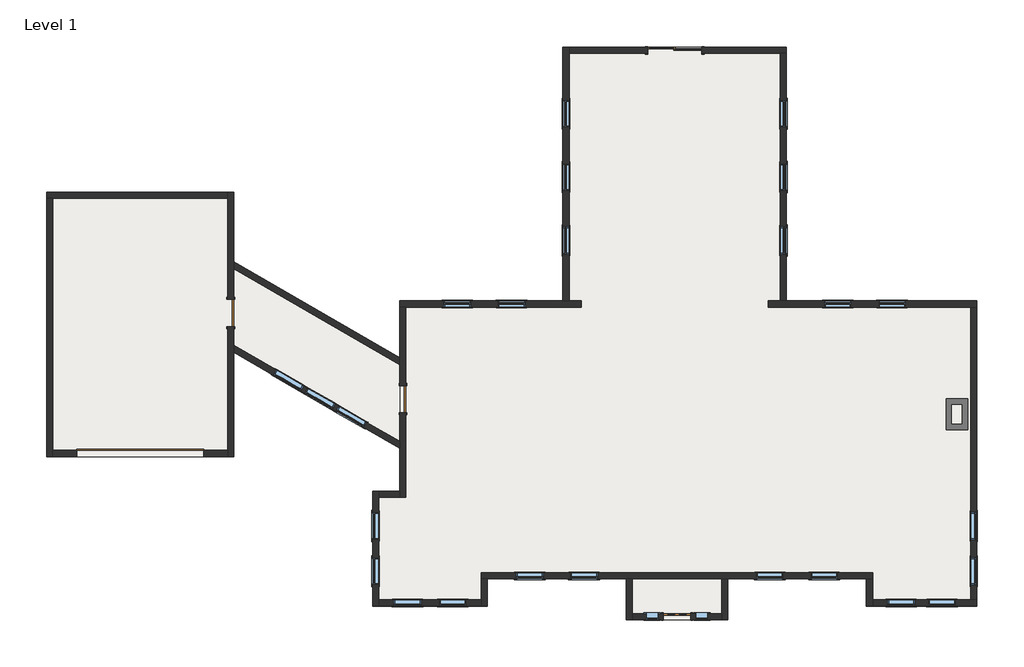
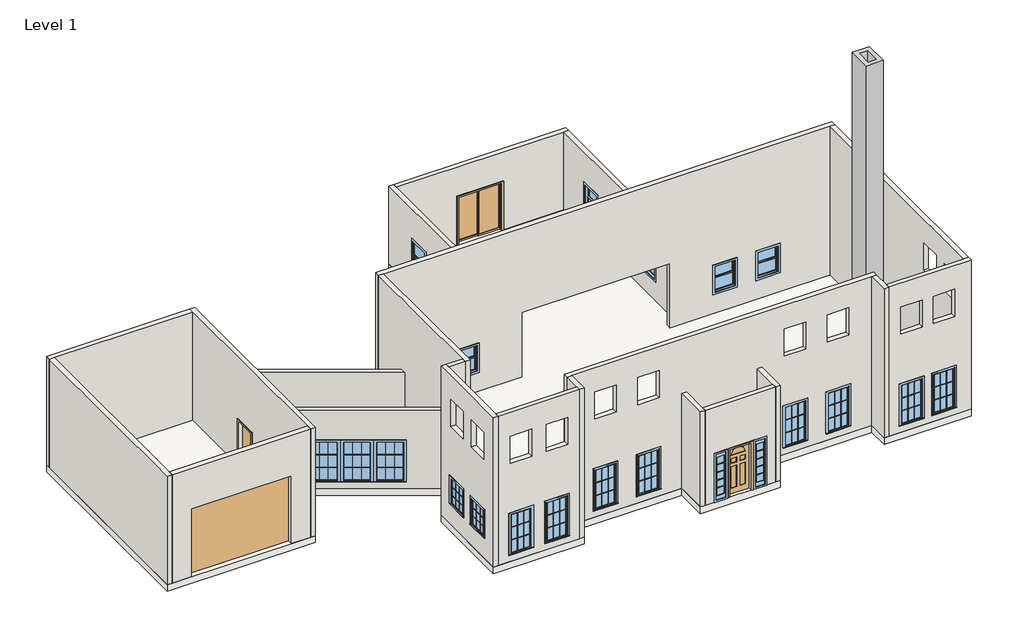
# One storey: 27 windows, 22 walls, 5 doors, 3 slabs, 1 proxy.
"""IFC4 building model written with IfcOpenShell, lengths in millimetres."""

from ifc_helpers import new_model, si_unit, frame, origin, origin_with_axes, place, context, project, spatial, polyline, outline, extrude, faceted_brep, transform, mapped, element, save
from components import chimney_chimney_af68f421, overhead_sectional_14_x_10_8c0ee61c, door_b1a02c97, door_4f2f89b6, door_f8fd2036, casement_3x3_with_trim_8b323df3, casement_3x3_with_trim_29c06734, casement_3x3_with_trim_7d330b5e, double_hung_with_trim_31198920, window_b28cb548, window_fc224a87

model = new_model("IFC4")

# Units and contexts
model_context = context("Model", 3, world=origin())
ifc_project = project(units=[si_unit("LENGTHUNIT", "METRE", prefix="MILLI")], contexts=[model_context])

# Site, building, storey
site = spatial("IfcSite", under=ifc_project)
building = spatial("IfcBuilding", under=site)
storey = spatial("IfcBuildingStorey", under=building, Name="Level 1", Elevation=0.0)

# Proxy
placement = place(None, origin())
chimney_chimney_shape = chimney_chimney_af68f421(model_context)
element("IfcBuildingElementProxy", 1, Name="chimney : chimney", ObjectType="chimney : chimney", at=placement, inside=storey, context=model_context, shape_type="MappedRepresentation", body=[
    mapped(chimney_chimney_shape, transform((0.0, 0.0, 0.0), x_axis=(1.0, 0.0, 0.0), y_axis=(0.0, 1.0, 0.0), z_axis=(0.0, 0.0, 1.0))),
])

# Doors
overhead_sectional_14_x_10_shape = overhead_sectional_14_x_10_8c0ee61c(model_context)
element("IfcDoor", 2, ObjectType="Overhead Sectional : 14 x 10", at=placement, inside=storey, context=model_context, shape_type="MappedRepresentation", body=[
    mapped(overhead_sectional_14_x_10_shape, transform((-185224.9354666, 11098.6757393, 0.0), x_axis=(-1.0, 0.0, 0.0), y_axis=(0.0, -1.0, 0.0), z_axis=(0.0, 0.0, 1.0))),
])
door_shape = door_b1a02c97(model_context)
element("IfcDoor", 3, ObjectType="Sample Decorative 2 : 36\" x 84\"", at=placement, inside=storey, context=model_context, shape_type="MappedRepresentation", body=[
    mapped(door_shape, transform((-167165.5354666, 5612.2757393, 0.0), x_axis=(1.0, 0.0, 0.0), y_axis=(0.0, 1.0, 0.0), z_axis=(0.0, 0.0, 1.0))),
])
door_2_shape = door_4f2f89b6(model_context)
element("IfcDoor", 4, ObjectType="Sgl Flush : 36\" x 80\"", at=placement, inside=storey, context=model_context, shape_type="MappedRepresentation", body=[
    mapped(door_2_shape, transform((-176385.7354666, 12927.4757393, 0.0), x_axis=(0.0, -1.0, 0.0), y_axis=(1.0, 0.0, 0.0), z_axis=(0.0, 0.0, 1.0))),
])
element("IfcDoor", 5, ObjectType="Sgl Flush : 36\" x 80\"", at=placement, inside=storey, context=model_context, shape_type="MappedRepresentation", body=[
    mapped(door_2_shape, transform((-182176.9354666, 15823.0757393, 0.0), x_axis=(0.0, -1.0, 0.0), y_axis=(1.0, 0.0, 0.0), z_axis=(0.0, 0.0, 1.0))),
])
door_3_shape = door_f8fd2036(model_context)
element("IfcDoor", 6, ObjectType="Sliding-2 panel : 72\" x 84\"", at=placement, inside=storey, context=model_context, shape_type="MappedRepresentation", body=[
    mapped(door_3_shape, transform((-167241.7354666, 24535.2757393, 0.0), x_axis=(1.0, 0.0, 0.0), y_axis=(0.0, 1.0, 0.0), z_axis=(0.0, 0.0, 1.0))),
])

# Slabs
element("IfcSlab", 7, ObjectType="Generic - 12\"", at=placement, inside=storey, context=model_context, shape_type="SweptSolid", body=[
    extrude(outline(polyline([(-188374.5354666, 19887.0757393), (-182075.3354666, 19887.0757393), (-182075.3354666, 10997.0757393), (-188374.5354666, 10997.0757393), (-188374.5354666, 19887.0757393)])), frame((0.0, 0.0, -304.8), z_axis=(0.0, 0.0, 1.0), x_axis=(1.0, 0.0, 0.0)), (0.0, 0.0, 1.0), 304.8),
])
element("IfcSlab", 8, ObjectType="Generic - 12\"", at=placement, inside=storey, context=model_context, shape_type="SweptSolid", body=[
    extrude(outline(polyline([(-182075.3354666, 17548.8854056), (-176487.3354666, 14322.6521013), (-176487.3354666, 11272.3951592), (-182075.3354666, 14498.6284634), (-182075.3354666, 17548.8854056)])), frame((0.0, 0.0, -304.8), z_axis=(0.0, 0.0, 1.0), x_axis=(1.0, 0.0, 0.0)), (0.0, 0.0, 1.0), 304.8),
])
element("IfcSlab", 9, ObjectType="Generic - 12\"", at=placement, inside=storey, context=model_context, shape_type="SweptSolid", body=[
    extrude(outline(polyline([(-171000.9354666, 16229.4757393), (-171000.9354666, 24763.8757393), (-163482.5354666, 24763.8757393), (-163482.5354666, 16229.4757393), (-157081.7354666, 16229.4757393), (-157081.7354666, 5967.8757393), (-160790.1354666, 5967.8757393), (-160790.1354666, 6882.2757393), (-165463.7354666, 6882.2757393), (-165463.7354666, 5510.6757393), (-168867.3354666, 5510.6757393), (-168867.3354666, 6882.2757393), (-173540.9354666, 6882.2757393), (-173540.9354666, 5967.8757393), (-177401.7354666, 5967.8757393), (-177401.7354666, 9828.6757393), (-176487.3354666, 9828.6757393), (-176487.3354666, 16229.4757393), (-171000.9354666, 16229.4757393)])), frame((0.0, 0.0, -304.8), z_axis=(0.0, 0.0, 1.0), x_axis=(1.0, 0.0, 0.0)), (0.0, 0.0, 1.0), 304.8),
])

# Walls
element("IfcWall", 10, ObjectType="Generic - 8\"", at=placement, inside=storey, context=model_context, shape_type="Brep", body=[
    faceted_brep([(-176487.3354666, 16026.2757393, 0.0), (-176284.1354666, 16026.2757393, 0.0), (-170391.3354666, 16026.2757393, 0.0), (-170391.3354666, 16026.2757393, 2895.6), (-164092.1354666, 16026.2757393, 2895.6), (-164092.1354666, 16026.2757393, 0.0), (-157284.9354666, 16026.2757393, 0.0), (-157081.7354666, 16026.2757393, 0.0), (-157081.7354666, 16026.2757393, 6705.6), (-157284.9354666, 16026.2757393, 6705.6), (-176284.1354666, 16026.2757393, 6705.6), (-176487.3354666, 16026.2757393, 6705.6), (-159469.3354666, 16026.2757393, 2133.6), (-159469.3354666, 16026.2757393, 914.4), (-160383.7354666, 16026.2757393, 914.4), (-160383.7354666, 16026.2757393, 2133.6), (-161298.1354666, 16026.2757393, 2133.6), (-161298.1354666, 16026.2757393, 914.4), (-162212.5354666, 16026.2757393, 914.4), (-162212.5354666, 16026.2757393, 2133.6), (-172270.9354666, 16026.2757393, 2133.6), (-172270.9354666, 16026.2757393, 914.4), (-173185.3354666, 16026.2757393, 914.4), (-173185.3354666, 16026.2757393, 2133.6), (-174099.7354666, 16026.2757393, 2133.6), (-174099.7354666, 16026.2757393, 914.4), (-175014.1354666, 16026.2757393, 914.4), (-175014.1354666, 16026.2757393, 2133.6), (-176487.3354666, 16229.4757393, 0.0), (-176487.3354666, 16229.4757393, 6705.6), (-157081.7354666, 16229.4757393, 6705.6), (-157081.7354666, 16229.4757393, 0.0), (-163482.5354666, 16229.4757393, 0.0), (-163685.7354666, 16229.4757393, 0.0), (-164092.1354666, 16229.4757393, 0.0), (-164092.1354666, 16229.4757393, 2895.6), (-170391.3354666, 16229.4757393, 2895.6), (-170391.3354666, 16229.4757393, 0.0), (-170797.7354666, 16229.4757393, 0.0), (-171000.9354666, 16229.4757393, 0.0), (-159469.3354666, 16229.4757393, 2133.6), (-160383.7354666, 16229.4757393, 2133.6), (-160383.7354666, 16229.4757393, 914.4), (-159469.3354666, 16229.4757393, 914.4), (-161298.1354666, 16229.4757393, 2133.6), (-162212.5354666, 16229.4757393, 2133.6), (-162212.5354666, 16229.4757393, 914.4), (-161298.1354666, 16229.4757393, 914.4), (-172270.9354666, 16229.4757393, 2133.6), (-173185.3354666, 16229.4757393, 2133.6), (-173185.3354666, 16229.4757393, 914.4), (-172270.9354666, 16229.4757393, 914.4), (-174099.7354666, 16229.4757393, 2133.6), (-175014.1354666, 16229.4757393, 2133.6), (-175014.1354666, 16229.4757393, 914.4), (-174099.7354666, 16229.4757393, 914.4)], [[[0, 1, 2, 3, 4, 5, 6, 7, 8, 9, 10, 11], [12, 13, 14, 15], [16, 17, 18, 19], [20, 21, 22, 23], [24, 25, 26, 27]], [[28, 29, 30, 31, 32, 33, 34, 35, 36, 37, 38, 39], [40, 41, 42, 43], [44, 45, 46, 47], [48, 49, 50, 51], [52, 53, 54, 55]], [[2, 1, 0, 28, 39, 38, 37]], [[11, 10, 9, 8, 30, 29]], [[0, 11, 29, 28]], [[3, 2, 37, 36]], [[4, 3, 36, 35]], [[5, 4, 35, 34]], [[7, 6, 5, 34, 33, 32, 31]], [[8, 7, 31, 30]], [[13, 12, 40, 43]], [[14, 13, 43, 42]], [[15, 14, 42, 41]], [[12, 15, 41, 40]], [[17, 16, 44, 47]], [[18, 17, 47, 46]], [[19, 18, 46, 45]], [[16, 19, 45, 44]], [[21, 20, 48, 51]], [[22, 21, 51, 50]], [[23, 22, 50, 49]], [[20, 23, 49, 48]], [[25, 24, 52, 55]], [[26, 25, 55, 54]], [[27, 26, 54, 53]], [[24, 27, 53, 52]]]),
])
element("IfcWall", 11, ObjectType="Generic - 8\"", at=placement, inside=storey, context=model_context, shape_type="Brep", body=[
    faceted_brep([(-176284.1354666, 9625.4757393, 0.0), (-176284.1354666, 12470.2757393, 0.0), (-176284.1354666, 12470.2757393, 2032.0), (-176284.1354666, 13384.6757393, 2032.0), (-176284.1354666, 13384.6757393, 0.0), (-176284.1354666, 16026.2757393, 0.0), (-176284.1354666, 16026.2757393, 6705.6), (-176284.1354666, 9625.4757393, 6705.6), (-176487.3354666, 12470.2757393, 2032.0), (-176487.3354666, 12470.2757393, 0.0), (-176487.3354666, 11507.0303086, 0.0), (-176487.3354666, 11272.3951592, 0.0), (-176487.3354666, 9828.6757393, 0.0), (-176487.3354666, 9625.4757393, 0.0), (-176487.3354666, 9625.4757393, 6705.6), (-176487.3354666, 9828.6757393, 6705.6), (-176487.3354666, 16026.2757393, 6705.6), (-176487.3354666, 16026.2757393, 0.0), (-176487.3354666, 14322.6521013, 0.0), (-176487.3354666, 14088.0169519, 0.0), (-176487.3354666, 13384.6757393, 0.0), (-176487.3354666, 13384.6757393, 2032.0)], [[[0, 1, 2, 3, 4, 5, 6, 7]], [[8, 9, 10, 11, 12, 13, 14, 15, 16, 17, 18, 19, 20, 21]], [[13, 12, 11, 10, 9, 1, 0]], [[20, 19, 18, 17, 5, 4]], [[7, 6, 16, 15, 14]], [[6, 5, 17, 16]], [[0, 7, 14, 13]], [[2, 1, 9, 8]], [[3, 2, 8, 21]], [[4, 3, 21, 20]]]),
])
element("IfcWall", 12, ObjectType="Generic - 8\"", at=placement, inside=storey, context=model_context, shape_type="Brep", body=[
    faceted_brep([(-160586.9354666, 7085.4757393, 0.0), (-173744.1354666, 7085.4757393, 0.0), (-173744.1354666, 7085.4757393, 6705.6), (-160586.9354666, 7085.4757393, 6705.6), (-162669.7354666, 7085.4757393, 5638.8), (-162669.7354666, 7085.4757393, 4419.6), (-161755.3354666, 7085.4757393, 4419.6), (-161755.3354666, 7085.4757393, 5638.8), (-164498.5354666, 7085.4757393, 5638.8), (-164498.5354666, 7085.4757393, 4419.6), (-163584.1354666, 7085.4757393, 4419.6), (-163584.1354666, 7085.4757393, 5638.8), (-170746.9354666, 7085.4757393, 5638.8), (-170746.9354666, 7085.4757393, 4419.6), (-169832.5354666, 7085.4757393, 4419.6), (-169832.5354666, 7085.4757393, 5638.8), (-172575.7354666, 7085.4757393, 5638.8), (-172575.7354666, 7085.4757393, 4419.6), (-171661.3354666, 7085.4757393, 4419.6), (-171661.3354666, 7085.4757393, 5638.8), (-162669.7354666, 7085.4757393, 2133.6), (-162669.7354666, 7085.4757393, 304.8), (-161755.3354666, 7085.4757393, 304.8), (-161755.3354666, 7085.4757393, 2133.6), (-164498.5354666, 7085.4757393, 2133.6), (-164498.5354666, 7085.4757393, 304.8), (-163584.1354666, 7085.4757393, 304.8), (-163584.1354666, 7085.4757393, 2133.6), (-170746.9354666, 7085.4757393, 2133.6), (-170746.9354666, 7085.4757393, 304.8), (-169832.5354666, 7085.4757393, 304.8), (-169832.5354666, 7085.4757393, 2133.6), (-172575.7354666, 7085.4757393, 2133.6), (-172575.7354666, 7085.4757393, 304.8), (-171661.3354666, 7085.4757393, 304.8), (-171661.3354666, 7085.4757393, 2133.6), (-160586.9354666, 6882.2757393, 0.0), (-160586.9354666, 6882.2757393, 6705.6), (-160790.1354666, 6882.2757393, 6705.6), (-173540.9354666, 6882.2757393, 6705.6), (-173744.1354666, 6882.2757393, 6705.6), (-173744.1354666, 6882.2757393, 0.0), (-173540.9354666, 6882.2757393, 0.0), (-168867.3354666, 6882.2757393, 0.0), (-168664.1354666, 6882.2757393, 0.0), (-165666.9354666, 6882.2757393, 0.0), (-165463.7354666, 6882.2757393, 0.0), (-160790.1354666, 6882.2757393, 0.0), (-162669.7354666, 6882.2757393, 5638.8), (-161755.3354666, 6882.2757393, 5638.8), (-161755.3354666, 6882.2757393, 4419.6), (-162669.7354666, 6882.2757393, 4419.6), (-164498.5354666, 6882.2757393, 5638.8), (-163584.1354666, 6882.2757393, 5638.8), (-163584.1354666, 6882.2757393, 4419.6), (-164498.5354666, 6882.2757393, 4419.6), (-170746.9354666, 6882.2757393, 5638.8), (-169832.5354666, 6882.2757393, 5638.8), (-169832.5354666, 6882.2757393, 4419.6), (-170746.9354666, 6882.2757393, 4419.6), (-172575.7354666, 6882.2757393, 5638.8), (-171661.3354666, 6882.2757393, 5638.8), (-171661.3354666, 6882.2757393, 4419.6), (-172575.7354666, 6882.2757393, 4419.6), (-162669.7354666, 6882.2757393, 2133.6), (-161755.3354666, 6882.2757393, 2133.6), (-161755.3354666, 6882.2757393, 304.8), (-162669.7354666, 6882.2757393, 304.8), (-164498.5354666, 6882.2757393, 2133.6), (-163584.1354666, 6882.2757393, 2133.6), (-163584.1354666, 6882.2757393, 304.8), (-164498.5354666, 6882.2757393, 304.8), (-170746.9354666, 6882.2757393, 2133.6), (-169832.5354666, 6882.2757393, 2133.6), (-169832.5354666, 6882.2757393, 304.8), (-170746.9354666, 6882.2757393, 304.8), (-172575.7354666, 6882.2757393, 2133.6), (-171661.3354666, 6882.2757393, 2133.6), (-171661.3354666, 6882.2757393, 304.8), (-172575.7354666, 6882.2757393, 304.8)], [[[0, 1, 2, 3], [4, 5, 6, 7], [8, 9, 10, 11], [12, 13, 14, 15], [16, 17, 18, 19], [20, 21, 22, 23], [24, 25, 26, 27], [28, 29, 30, 31], [32, 33, 34, 35]], [[36, 37, 38, 39, 40, 41, 42, 43, 44, 45, 46, 47], [48, 49, 50, 51], [52, 53, 54, 55], [56, 57, 58, 59], [60, 61, 62, 63], [64, 65, 66, 67], [68, 69, 70, 71], [72, 73, 74, 75], [76, 77, 78, 79]], [[1, 0, 36, 47, 46, 45, 44, 43, 42, 41]], [[3, 2, 40, 39, 38, 37]], [[2, 1, 41, 40]], [[0, 3, 37, 36]], [[5, 4, 48, 51]], [[6, 5, 51, 50]], [[7, 6, 50, 49]], [[4, 7, 49, 48]], [[9, 8, 52, 55]], [[10, 9, 55, 54]], [[11, 10, 54, 53]], [[8, 11, 53, 52]], [[13, 12, 56, 59]], [[14, 13, 59, 58]], [[15, 14, 58, 57]], [[12, 15, 57, 56]], [[17, 16, 60, 63]], [[18, 17, 63, 62]], [[19, 18, 62, 61]], [[16, 19, 61, 60]], [[21, 20, 64, 67]], [[22, 21, 67, 66]], [[23, 22, 66, 65]], [[20, 23, 65, 64]], [[25, 24, 68, 71]], [[26, 25, 71, 70]], [[27, 26, 70, 69]], [[24, 27, 69, 68]], [[29, 28, 72, 75]], [[30, 29, 75, 74]], [[31, 30, 74, 73]], [[28, 31, 73, 72]], [[33, 32, 76, 79]], [[34, 33, 79, 78]], [[35, 34, 78, 77]], [[32, 35, 77, 76]]]),
])
element("IfcWall", 13, ObjectType="Generic - 8\"", at=placement, inside=storey, context=model_context, shape_type="Brep", body=[
    faceted_brep([(-177198.5354666, 5967.8757393, 6705.6), (-177198.5354666, 6171.0757393, 6705.6), (-177198.5354666, 9625.4757393, 6705.6), (-177198.5354666, 9828.6757393, 6705.6), (-177401.7354666, 9828.6757393, 6705.6), (-177401.7354666, 5967.8757393, 6705.6), (-177198.5354666, 5967.8757393, 0.0), (-177198.5354666, 6171.0757393, 0.0), (-177198.5354666, 9625.4757393, 0.0), (-177198.5354666, 9828.6757393, 0.0), (-177198.5354666, 9117.4757393, 2133.6), (-177198.5354666, 9117.4757393, 914.4), (-177198.5354666, 8203.0757393, 914.4), (-177198.5354666, 8203.0757393, 2133.6), (-177198.5354666, 7593.4757393, 2133.6), (-177198.5354666, 7593.4757393, 914.4), (-177198.5354666, 6679.0757393, 914.4), (-177198.5354666, 6679.0757393, 2133.6), (-177198.5354666, 9117.4757393, 5638.8), (-177198.5354666, 9117.4757393, 4419.6), (-177198.5354666, 8203.0757393, 4419.6), (-177198.5354666, 8203.0757393, 5638.8), (-177198.5354666, 7593.4757393, 5638.8), (-177198.5354666, 7593.4757393, 4419.6), (-177198.5354666, 6679.0757393, 4419.6), (-177198.5354666, 6679.0757393, 5638.8), (-177401.7354666, 5967.8757393, 0.0), (-177401.7354666, 9828.6757393, 0.0), (-177401.7354666, 9117.4757393, 2133.6), (-177401.7354666, 8203.0757393, 2133.6), (-177401.7354666, 8203.0757393, 914.4), (-177401.7354666, 9117.4757393, 914.4), (-177401.7354666, 7593.4757393, 2133.6), (-177401.7354666, 6679.0757393, 2133.6), (-177401.7354666, 6679.0757393, 914.4), (-177401.7354666, 7593.4757393, 914.4), (-177401.7354666, 9117.4757393, 5638.8), (-177401.7354666, 8203.0757393, 5638.8), (-177401.7354666, 8203.0757393, 4419.6), (-177401.7354666, 9117.4757393, 4419.6), (-177401.7354666, 7593.4757393, 5638.8), (-177401.7354666, 6679.0757393, 5638.8), (-177401.7354666, 6679.0757393, 4419.6), (-177401.7354666, 7593.4757393, 4419.6)], [[[0, 1, 2, 3, 4, 5]], [[6, 7, 8, 9, 3, 2, 1, 0], [10, 11, 12, 13], [14, 15, 16, 17], [18, 19, 20, 21], [22, 23, 24, 25]], [[26, 5, 4, 27], [28, 29, 30, 31], [32, 33, 34, 35], [36, 37, 38, 39], [40, 41, 42, 43]], [[9, 8, 7, 6, 26, 27]], [[3, 9, 27, 4]], [[6, 0, 5, 26]], [[11, 10, 28, 31]], [[12, 11, 31, 30]], [[13, 12, 30, 29]], [[10, 13, 29, 28]], [[15, 14, 32, 35]], [[16, 15, 35, 34]], [[17, 16, 34, 33]], [[14, 17, 33, 32]], [[19, 18, 36, 39]], [[20, 19, 39, 38]], [[21, 20, 38, 37]], [[18, 21, 37, 36]], [[23, 22, 40, 43]], [[24, 23, 43, 42]], [[25, 24, 42, 41]], [[22, 25, 41, 40]]]),
])
element("IfcWall", 14, ObjectType="Generic - 8\"", at=placement, inside=storey, context=model_context, shape_type="SweptSolid", body=[
    extrude(outline(polyline([(-176487.3354666, 9625.4757393), (-177198.5354666, 9625.4757393), (-177198.5354666, 9828.6757393), (-176487.3354666, 9828.6757393), (-176487.3354666, 9625.4757393)])), origin_with_axes(), (0.0, 0.0, 1.0), 6705.6),
])
element("IfcWall", 15, ObjectType="Generic - 8\"", at=placement, inside=storey, context=model_context, shape_type="SweptSolid", body=[
    extrude(outline(polyline([(16026.2757393, 0.0), (6171.0757393, 0.0), (6171.0757393, 6705.6), (16026.2757393, 6705.6), (16026.2757393, 0.0)]), holes=[polyline([(8203.0757393, 2133.6), (8203.0757393, 914.4), (9117.4757393, 914.4), (9117.4757393, 2133.6), (8203.0757393, 2133.6)]), polyline([(6679.0757393, 2133.6), (6679.0757393, 914.4), (7593.4757393, 914.4), (7593.4757393, 2133.6), (6679.0757393, 2133.6)]), polyline([(8203.0757393, 5638.8), (8203.0757393, 4419.6), (9117.4757393, 4419.6), (9117.4757393, 5638.8), (8203.0757393, 5638.8)]), polyline([(6679.0757393, 5638.8), (6679.0757393, 4419.6), (7593.4757393, 4419.6), (7593.4757393, 5638.8), (6679.0757393, 5638.8)])]), frame((-157284.9354666, 0.0, 0.0), z_axis=(1.0, 0.0, 0.0), x_axis=(0.0, 1.0, 0.0)), (0.0, 0.0, 1.0), 203.2),
])
element("IfcWall", 16, ObjectType="Generic - 8\"", at=placement, inside=storey, context=model_context, shape_type="Brep", body=[
    faceted_brep([(-173744.1354666, 6882.2757393, 0.0), (-173744.1354666, 6171.0757393, 0.0), (-173744.1354666, 5967.8757393, 0.0), (-173744.1354666, 5967.8757393, 6705.6), (-173744.1354666, 6171.0757393, 6705.6), (-173744.1354666, 6882.2757393, 6705.6), (-173540.9354666, 6882.2757393, 0.0), (-173540.9354666, 6882.2757393, 6705.6), (-173540.9354666, 5967.8757393, 6705.6), (-173540.9354666, 5967.8757393, 0.0)], [[[0, 1, 2, 3, 4, 5]], [[6, 7, 8, 9]], [[2, 1, 0, 6, 9]], [[5, 4, 3, 8, 7]], [[3, 2, 9, 8]], [[0, 5, 7, 6]]]),
])
element("IfcWall", 17, ObjectType="Generic - 8\"", at=placement, inside=storey, context=model_context, shape_type="SweptSolid", body=[
    extrude(outline(polyline([(0.0, -173744.1354666), (6705.6, -173744.1354666), (6705.6, -177198.5354666), (0.0, -177198.5354666), (0.0, -173744.1354666)]), holes=[polyline([(5638.8, -175166.5354666), (5638.8, -174252.1354666), (4419.6, -174252.1354666), (4419.6, -175166.5354666), (5638.8, -175166.5354666)]), polyline([(5638.8, -176690.5354666), (5638.8, -175776.1354666), (4419.6, -175776.1354666), (4419.6, -176690.5354666), (5638.8, -176690.5354666)]), polyline([(2133.6, -175166.5354666), (2133.6, -174252.1354666), (304.8, -174252.1354666), (304.8, -175166.5354666), (2133.6, -175166.5354666)]), polyline([(2133.6, -176690.5354666), (2133.6, -175776.1354666), (304.8, -175776.1354666), (304.8, -176690.5354666), (2133.6, -176690.5354666)])]), frame((0.0, 5967.8757393, 0.0), z_axis=(0.0, 1.0, 0.0), x_axis=(0.0, 0.0, 1.0)), (0.0, 0.0, 1.0), 203.2),
])
element("IfcWall", 18, ObjectType="Generic - 8\"", at=placement, inside=storey, context=model_context, shape_type="Brep", body=[
    faceted_brep([(-160790.1354666, 6882.2757393, 0.0), (-160790.1354666, 5967.8757393, 0.0), (-160790.1354666, 5967.8757393, 6705.6), (-160790.1354666, 6882.2757393, 6705.6), (-160586.9354666, 6882.2757393, 0.0), (-160586.9354666, 6882.2757393, 6705.6), (-160586.9354666, 6171.0757393, 6705.6), (-160586.9354666, 5967.8757393, 6705.6), (-160586.9354666, 5967.8757393, 0.0), (-160586.9354666, 6171.0757393, 0.0)], [[[0, 1, 2, 3]], [[4, 5, 6, 7, 8, 9]], [[1, 0, 4, 9, 8]], [[3, 2, 7, 6, 5]], [[2, 1, 8, 7]], [[0, 3, 5, 4]]]),
])
element("IfcWall", 19, ObjectType="Generic - 8\"", at=placement, inside=storey, context=model_context, shape_type="Brep", body=[
    faceted_brep([(-160586.9354666, 5967.8757393, 6705.6), (-157081.7354666, 5967.8757393, 6705.6), (-157081.7354666, 6171.0757393, 6705.6), (-157284.9354666, 6171.0757393, 6705.6), (-160586.9354666, 6171.0757393, 6705.6), (-160586.9354666, 5967.8757393, 0.0), (-157081.7354666, 5967.8757393, 0.0), (-158707.3354666, 5967.8757393, 5638.8), (-157792.9354666, 5967.8757393, 5638.8), (-157792.9354666, 5967.8757393, 4419.6), (-158707.3354666, 5967.8757393, 4419.6), (-160078.9354666, 5967.8757393, 5638.8), (-159164.5354666, 5967.8757393, 5638.8), (-159164.5354666, 5967.8757393, 4419.6), (-160078.9354666, 5967.8757393, 4419.6), (-158707.3354666, 5967.8757393, 2133.6), (-157792.9354666, 5967.8757393, 2133.6), (-157792.9354666, 5967.8757393, 304.8), (-158707.3354666, 5967.8757393, 304.8), (-160078.9354666, 5967.8757393, 2133.6), (-159164.5354666, 5967.8757393, 2133.6), (-159164.5354666, 5967.8757393, 304.8), (-160078.9354666, 5967.8757393, 304.8), (-160586.9354666, 6171.0757393, 0.0), (-157081.7354666, 6171.0757393, 0.0), (-157284.9354666, 6171.0757393, 0.0), (-158707.3354666, 6171.0757393, 5638.8), (-158707.3354666, 6171.0757393, 4419.6), (-157792.9354666, 6171.0757393, 4419.6), (-157792.9354666, 6171.0757393, 5638.8), (-160078.9354666, 6171.0757393, 5638.8), (-160078.9354666, 6171.0757393, 4419.6), (-159164.5354666, 6171.0757393, 4419.6), (-159164.5354666, 6171.0757393, 5638.8), (-158707.3354666, 6171.0757393, 2133.6), (-158707.3354666, 6171.0757393, 304.8), (-157792.9354666, 6171.0757393, 304.8), (-157792.9354666, 6171.0757393, 2133.6), (-160078.9354666, 6171.0757393, 2133.6), (-160078.9354666, 6171.0757393, 304.8), (-159164.5354666, 6171.0757393, 304.8), (-159164.5354666, 6171.0757393, 2133.6)], [[[0, 1, 2, 3, 4]], [[5, 6, 1, 0], [7, 8, 9, 10], [11, 12, 13, 14], [15, 16, 17, 18], [19, 20, 21, 22]], [[23, 4, 3, 2, 24, 25], [26, 27, 28, 29], [30, 31, 32, 33], [34, 35, 36, 37], [38, 39, 40, 41]], [[6, 5, 23, 25, 24]], [[5, 0, 4, 23]], [[1, 6, 24, 2]], [[27, 26, 7, 10]], [[28, 27, 10, 9]], [[29, 28, 9, 8]], [[26, 29, 8, 7]], [[31, 30, 11, 14]], [[32, 31, 14, 13]], [[33, 32, 13, 12]], [[30, 33, 12, 11]], [[35, 34, 15, 18]], [[36, 35, 18, 17]], [[37, 36, 17, 16]], [[34, 37, 16, 15]], [[39, 38, 19, 22]], [[40, 39, 22, 21]], [[41, 40, 21, 20]], [[38, 41, 20, 19]]]),
])
element("IfcWall", 20, ObjectType="Generic - 8\"", at=placement, inside=storey, context=model_context, shape_type="Brep", body=[
    faceted_brep([(-168867.3354666, 6882.2757393, 0.0), (-168867.3354666, 5510.6757393, 0.0), (-168867.3354666, 5510.6757393, 4267.2), (-168867.3354666, 6882.2757393, 4267.2), (-168664.1354666, 6882.2757393, 0.0), (-168664.1354666, 6882.2757393, 4267.2), (-168664.1354666, 5713.8757393, 4267.2), (-168664.1354666, 5510.6757393, 4267.2), (-168664.1354666, 5510.6757393, 0.0), (-168664.1354666, 5713.8757393, 0.0)], [[[0, 1, 2, 3]], [[4, 5, 6, 7, 8, 9]], [[1, 0, 4, 9, 8]], [[3, 2, 7, 6, 5]], [[2, 1, 8, 7]], [[0, 3, 5, 4]]]),
])
element("IfcWall", 21, ObjectType="Generic - 8\"", at=placement, inside=storey, context=model_context, shape_type="Brep", body=[
    faceted_brep([(-165666.9354666, 6882.2757393, 0.0), (-165666.9354666, 5713.8757393, 0.0), (-165666.9354666, 5510.6757393, 0.0), (-165666.9354666, 5510.6757393, 4267.2), (-165666.9354666, 5713.8757393, 4267.2), (-165666.9354666, 6882.2757393, 4267.2), (-165463.7354666, 6882.2757393, 0.0), (-165463.7354666, 6882.2757393, 4267.2), (-165463.7354666, 5510.6757393, 4267.2), (-165463.7354666, 5510.6757393, 0.0)], [[[0, 1, 2, 3, 4, 5]], [[6, 7, 8, 9]], [[2, 1, 0, 6, 9]], [[5, 4, 3, 8, 7]], [[3, 2, 9, 8]], [[0, 5, 7, 6]]]),
])
element("IfcWall", 22, ObjectType="Generic - 8\"", at=placement, inside=storey, context=model_context, shape_type="SweptSolid", body=[
    extrude(outline(polyline([(0.0, -166708.3354666), (0.0, -166530.5354666), (2133.6, -166530.5354666), (2133.6, -166124.1354666), (0.0, -166124.1354666), (0.0, -165666.9354666), (4267.2, -165666.9354666), (4267.2, -168664.1354666), (0.0, -168664.1354666), (0.0, -168206.9354666), (2133.6, -168206.9354666), (2133.6, -167800.5354666), (0.0, -167800.5354666), (0.0, -167622.7354666), (2133.6, -167622.7354666), (2133.6, -166708.3354666), (0.0, -166708.3354666)])), frame((0.0, 5510.6757393, 0.0), z_axis=(0.0, 1.0, 0.0), x_axis=(0.0, 0.0, 1.0)), (0.0, 0.0, 1.0), 203.2),
])
element("IfcWall", 23, ObjectType="Generic - 8\"", at=placement, inside=storey, context=model_context, shape_type="Brep", body=[
    faceted_brep([(-170797.7354666, 16229.4757393, 3505.2), (-170797.7354666, 24560.6757393, 3505.2), (-170797.7354666, 24763.8757393, 3505.2), (-171000.9354666, 24763.8757393, 3505.2), (-171000.9354666, 16229.4757393, 3505.2), (-170797.7354666, 16229.4757393, 0.0), (-170797.7354666, 24560.6757393, 0.0), (-170797.7354666, 24763.8757393, 0.0), (-170797.7354666, 22985.8757393, 2133.6), (-170797.7354666, 22985.8757393, 914.4), (-170797.7354666, 22071.4757393, 914.4), (-170797.7354666, 22071.4757393, 2133.6), (-170797.7354666, 20852.2757393, 2133.6), (-170797.7354666, 20852.2757393, 914.4), (-170797.7354666, 19937.8757393, 914.4), (-170797.7354666, 19937.8757393, 2133.6), (-170797.7354666, 18718.6757393, 2133.6), (-170797.7354666, 18718.6757393, 914.4), (-170797.7354666, 17804.2757393, 914.4), (-170797.7354666, 17804.2757393, 2133.6), (-171000.9354666, 16229.4757393, 0.0), (-171000.9354666, 24763.8757393, 0.0), (-171000.9354666, 22985.8757393, 2133.6), (-171000.9354666, 22071.4757393, 2133.6), (-171000.9354666, 22071.4757393, 914.4), (-171000.9354666, 22985.8757393, 914.4), (-171000.9354666, 20852.2757393, 2133.6), (-171000.9354666, 19937.8757393, 2133.6), (-171000.9354666, 19937.8757393, 914.4), (-171000.9354666, 20852.2757393, 914.4), (-171000.9354666, 18718.6757393, 2133.6), (-171000.9354666, 17804.2757393, 2133.6), (-171000.9354666, 17804.2757393, 914.4), (-171000.9354666, 18718.6757393, 914.4)], [[[0, 1, 2, 3, 4]], [[5, 6, 7, 2, 1, 0], [8, 9, 10, 11], [12, 13, 14, 15], [16, 17, 18, 19]], [[20, 4, 3, 21], [22, 23, 24, 25], [26, 27, 28, 29], [30, 31, 32, 33]], [[7, 6, 5, 20, 21]], [[5, 0, 4, 20]], [[2, 7, 21, 3]], [[9, 8, 22, 25]], [[10, 9, 25, 24]], [[11, 10, 24, 23]], [[8, 11, 23, 22]], [[13, 12, 26, 29]], [[14, 13, 29, 28]], [[15, 14, 28, 27]], [[12, 15, 27, 26]], [[17, 16, 30, 33]], [[18, 17, 33, 32]], [[19, 18, 32, 31]], [[16, 19, 31, 30]]]),
])
element("IfcWall", 24, ObjectType="Generic - 8\"", at=placement, inside=storey, context=model_context, shape_type="Brep", body=[
    faceted_brep([(-170797.7354666, 24560.6757393, 3505.2), (-163685.7354666, 24560.6757393, 3505.2), (-163482.5354666, 24560.6757393, 3505.2), (-163482.5354666, 24763.8757393, 3505.2), (-170797.7354666, 24763.8757393, 3505.2), (-166327.3354666, 24560.6757393, 2133.6), (-166327.3354666, 24560.6757393, 0.0), (-163685.7354666, 24560.6757393, 0.0), (-163482.5354666, 24560.6757393, 0.0), (-170797.7354666, 24560.6757393, 0.0), (-168156.1354666, 24560.6757393, 0.0), (-168156.1354666, 24560.6757393, 2133.6), (-163482.5354666, 24763.8757393, 0.0), (-166327.3354666, 24763.8757393, 0.0), (-166327.3354666, 24763.8757393, 2133.6), (-168156.1354666, 24763.8757393, 2133.6), (-168156.1354666, 24763.8757393, 0.0), (-170797.7354666, 24763.8757393, 0.0)], [[[0, 1, 2, 3, 4]], [[5, 6, 7, 8, 2, 1, 0, 9, 10, 11]], [[12, 13, 14, 15, 16, 17, 4, 3]], [[8, 7, 6, 13, 12]], [[10, 9, 17, 16]], [[9, 0, 4, 17]], [[2, 8, 12, 3]], [[16, 15, 11, 10]], [[14, 13, 6, 5]], [[15, 14, 5, 11]]]),
])
element("IfcWall", 25, ObjectType="Generic - 8\"", at=placement, inside=storey, context=model_context, shape_type="SweptSolid", body=[
    extrude(outline(polyline([(16229.4757393, 0.0), (16229.4757393, 3505.2), (24560.6757393, 3505.2), (24560.6757393, 0.0), (16229.4757393, 0.0)]), holes=[polyline([(17804.2757393, 2133.6), (17804.2757393, 914.4), (18718.6757393, 914.4), (18718.6757393, 2133.6), (17804.2757393, 2133.6)]), polyline([(19937.8757393, 2133.6), (19937.8757393, 914.4), (20852.2757393, 914.4), (20852.2757393, 2133.6), (19937.8757393, 2133.6)]), polyline([(22071.4757393, 2133.6), (22071.4757393, 914.4), (22985.8757393, 914.4), (22985.8757393, 2133.6), (22071.4757393, 2133.6)])]), frame((-163685.7354666, 0.0, 0.0), z_axis=(1.0, 0.0, 0.0), x_axis=(0.0, 1.0, 0.0)), (0.0, 0.0, 1.0), 203.2),
])
element("IfcWall", 26, ObjectType="Generic - 8\"", at=placement, inside=storey, context=model_context, shape_type="Brep", body=[
    faceted_brep([(-188374.5354666, 19683.8757393, 0.0), (-188171.3354666, 19683.8757393, 0.0), (-182278.5354666, 19683.8757393, 0.0), (-182278.5354666, 19683.8757393, 4876.8), (-188171.3354666, 19683.8757393, 4876.8), (-188374.5354666, 19683.8757393, 4876.8), (-188374.5354666, 19887.0757393, 0.0), (-188374.5354666, 19887.0757393, 4876.8), (-182278.5354666, 19887.0757393, 4876.8), (-182278.5354666, 19887.0757393, 0.0)], [[[0, 1, 2, 3, 4, 5]], [[6, 7, 8, 9]], [[2, 1, 0, 6, 9]], [[5, 4, 3, 8, 7]], [[0, 5, 7, 6]], [[3, 2, 9, 8]]]),
])
element("IfcWall", 27, ObjectType="Generic - 8\"", at=placement, inside=storey, context=model_context, shape_type="Brep", body=[
    faceted_brep([(-188171.3354666, 10997.0757393, 0.0), (-188171.3354666, 11200.2757393, 0.0), (-188171.3354666, 19683.8757393, 0.0), (-188171.3354666, 19683.8757393, 4876.8), (-188171.3354666, 11200.2757393, 4876.8), (-188171.3354666, 10997.0757393, 4876.8), (-188374.5354666, 10997.0757393, 0.0), (-188374.5354666, 10997.0757393, 4876.8), (-188374.5354666, 19683.8757393, 4876.8), (-188374.5354666, 19683.8757393, 0.0)], [[[0, 1, 2, 3, 4, 5]], [[6, 7, 8, 9]], [[2, 1, 0, 6, 9]], [[5, 4, 3, 8, 7]], [[0, 5, 7, 6]], [[3, 2, 9, 8]]]),
])
element("IfcWall", 28, ObjectType="Generic - 8\"", at=placement, inside=storey, context=model_context, shape_type="SweptSolid", body=[
    extrude(outline(polyline([(0.0, -188171.3354666), (0.0, -187358.5354666), (3048.0, -187358.5354666), (3048.0, -183091.3354666), (0.0, -183091.3354666), (0.0, -182278.5354666), (4876.8, -182278.5354666), (4876.8, -188171.3354666), (0.0, -188171.3354666)])), frame((0.0, 10997.0757393, 0.0), z_axis=(0.0, 1.0, 0.0), x_axis=(0.0, 0.0, 1.0)), (0.0, 0.0, 1.0), 203.2),
])
element("IfcWall", 29, ObjectType="Generic - 8\"", at=placement, inside=storey, context=model_context, shape_type="Brep", body=[
    faceted_brep([(-182278.5354666, 15365.8757393, 2032.0), (-182278.5354666, 15365.8757393, 0.0), (-182278.5354666, 11200.2757393, 0.0), (-182278.5354666, 10997.0757393, 0.0), (-182278.5354666, 10997.0757393, 4876.8), (-182278.5354666, 11200.2757393, 4876.8), (-182278.5354666, 19683.8757393, 4876.8), (-182278.5354666, 19887.0757393, 4876.8), (-182278.5354666, 19887.0757393, 0.0), (-182278.5354666, 19683.8757393, 0.0), (-182278.5354666, 16280.2757393, 0.0), (-182278.5354666, 16280.2757393, 2032.0), (-182075.3354666, 10997.0757393, 0.0), (-182075.3354666, 14498.6284634, 0.0), (-182075.3354666, 14733.2636128, 0.0), (-182075.3354666, 15365.8757393, 0.0), (-182075.3354666, 15365.8757393, 2032.0), (-182075.3354666, 16280.2757393, 2032.0), (-182075.3354666, 16280.2757393, 0.0), (-182075.3354666, 17314.2502562, 0.0), (-182075.3354666, 17548.8854056, 0.0), (-182075.3354666, 19887.0757393, 0.0), (-182075.3354666, 19887.0757393, 4876.8), (-182075.3354666, 10997.0757393, 4876.8)], [[[0, 1, 2, 3, 4, 5, 6, 7, 8, 9, 10, 11]], [[12, 13, 14, 15, 16, 17, 18, 19, 20, 21, 22, 23]], [[3, 2, 1, 15, 14, 13, 12]], [[10, 9, 8, 21, 20, 19, 18]], [[7, 6, 5, 4, 23, 22]], [[8, 7, 22, 21]], [[4, 3, 12, 23]], [[16, 15, 1, 0]], [[17, 16, 0, 11]], [[18, 17, 11, 10]]]),
])
element("IfcWall", 30, ObjectType="Generic - 8\"", at=placement, inside=storey, context=model_context, shape_type="SweptSolid", body=[
    extrude(outline(polyline([(-182075.3354666, 17548.8854056), (-176487.3354666, 14322.6521013), (-176487.3354666, 14088.0169519), (-182075.3354666, 17314.2502562), (-182075.3354666, 17548.8854056)])), origin_with_axes(), (0.0, 0.0, 1.0), 3505.2),
])
element("IfcWall", 31, ObjectType="Generic - 8\"", at=placement, inside=storey, context=model_context, shape_type="Brep", body=[
    faceted_brep([(-176487.3354666, 11507.0303086, 3505.2), (-182075.3354666, 14733.2636128, 3505.2), (-182075.3354666, 14498.6284634, 3505.2), (-176487.3354666, 11272.3951592, 3505.2), (-176487.3354666, 11507.0303086, 0.0), (-182075.3354666, 14733.2636128, 0.0), (-178535.1154909, 12689.3166568, 2133.6), (-178535.1154909, 12689.3166568, 304.8), (-177611.2395902, 12155.9166568, 304.8), (-177611.2395902, 12155.9166568, 2133.6), (-179590.9736632, 13298.9166568, 2133.6), (-179590.9736632, 13298.9166568, 304.8), (-178667.0977625, 12765.5166568, 304.8), (-178667.0977625, 12765.5166568, 2133.6), (-180646.8318355, 13908.5166568, 2133.6), (-180646.8318355, 13908.5166568, 304.8), (-179722.9559347, 13375.1166568, 304.8), (-179722.9559347, 13375.1166568, 2133.6), (-176487.3354666, 11272.3951592, 0.0), (-182075.3354666, 14498.6284634, 0.0), (-178636.7154909, 12513.3402948, 2133.6), (-177712.8395902, 11979.9402948, 2133.6), (-177712.8395902, 11979.9402948, 304.8), (-178636.7154909, 12513.3402948, 304.8), (-179692.5736632, 13122.9402948, 2133.6), (-178768.6977625, 12589.5402948, 2133.6), (-178768.6977625, 12589.5402948, 304.8), (-179692.5736632, 13122.9402948, 304.8), (-180748.4318355, 13732.5402948, 2133.6), (-179824.5559347, 13199.1402948, 2133.6), (-179824.5559347, 13199.1402948, 304.8), (-180748.4318355, 13732.5402948, 304.8)], [[[0, 1, 2, 3]], [[4, 5, 1, 0], [6, 7, 8, 9], [10, 11, 12, 13], [14, 15, 16, 17]], [[18, 3, 2, 19], [20, 21, 22, 23], [24, 25, 26, 27], [28, 29, 30, 31]], [[5, 4, 18, 19]], [[4, 0, 3, 18]], [[1, 5, 19, 2]], [[7, 6, 20, 23]], [[8, 7, 23, 22]], [[9, 8, 22, 21]], [[6, 9, 21, 20]], [[11, 10, 24, 27]], [[12, 11, 27, 26]], [[13, 12, 26, 25]], [[10, 13, 25, 24]], [[15, 14, 28, 31]], [[16, 15, 31, 30]], [[17, 16, 30, 29]], [[14, 17, 29, 28]]]),
])

# Windows
casement_3x3_with_trim_shape = casement_3x3_with_trim_8b323df3(model_context)
element("IfcWindow", 32, ObjectType="Casement 3x3 with Trim : 36\"w x 72\"h", at=placement, inside=storey, context=model_context, shape_type="MappedRepresentation", body=[
    mapped(casement_3x3_with_trim_shape, transform((-176233.3354666, 6069.4757393, 0.0), x_axis=(-1.0, 0.0, 0.0), y_axis=(0.0, -1.0, 0.0), z_axis=(0.0, 0.0, 1.0))),
])
element("IfcWindow", 33, ObjectType="Casement 3x3 with Trim : 36\"w x 72\"h", at=placement, inside=storey, context=model_context, shape_type="MappedRepresentation", body=[
    mapped(casement_3x3_with_trim_shape, transform((-174709.3354666, 6069.4757393, 0.0), x_axis=(-1.0, 0.0, 0.0), y_axis=(0.0, -1.0, 0.0), z_axis=(0.0, 0.0, 1.0))),
])
element("IfcWindow", 34, ObjectType="Casement 3x3 with Trim : 36\"w x 72\"h", at=placement, inside=storey, context=model_context, shape_type="MappedRepresentation", body=[
    mapped(casement_3x3_with_trim_shape, transform((-159621.7354666, 6069.4757393, 0.0), x_axis=(-1.0, 0.0, 0.0), y_axis=(0.0, -1.0, 0.0), z_axis=(0.0, 0.0, 1.0))),
])
element("IfcWindow", 35, ObjectType="Casement 3x3 with Trim : 36\"w x 72\"h", at=placement, inside=storey, context=model_context, shape_type="MappedRepresentation", body=[
    mapped(casement_3x3_with_trim_shape, transform((-158250.1354666, 6069.4757393, 0.0), x_axis=(-1.0, 0.0, 0.0), y_axis=(0.0, -1.0, 0.0), z_axis=(0.0, 0.0, 1.0))),
])
element("IfcWindow", 36, ObjectType="Casement 3x3 with Trim : 36\"w x 72\"h", at=placement, inside=storey, context=model_context, shape_type="MappedRepresentation", body=[
    mapped(casement_3x3_with_trim_shape, transform((-172118.5354666, 6983.8757393, 0.0), x_axis=(-1.0, 0.0, 0.0), y_axis=(0.0, -1.0, 0.0), z_axis=(0.0, 0.0, 1.0))),
])
element("IfcWindow", 37, ObjectType="Casement 3x3 with Trim : 36\"w x 72\"h", at=placement, inside=storey, context=model_context, shape_type="MappedRepresentation", body=[
    mapped(casement_3x3_with_trim_shape, transform((-170289.7354666, 6983.8757393, 0.0), x_axis=(-1.0, 0.0, 0.0), y_axis=(0.0, -1.0, 0.0), z_axis=(0.0, 0.0, 1.0))),
])
element("IfcWindow", 38, ObjectType="Casement 3x3 with Trim : 36\"w x 72\"h", at=placement, inside=storey, context=model_context, shape_type="MappedRepresentation", body=[
    mapped(casement_3x3_with_trim_shape, transform((-164041.3354666, 6983.8757393, 0.0), x_axis=(-1.0, 0.0, 0.0), y_axis=(0.0, -1.0, 0.0), z_axis=(0.0, 0.0, 1.0))),
])
element("IfcWindow", 39, ObjectType="Casement 3x3 with Trim : 36\"w x 72\"h", at=placement, inside=storey, context=model_context, shape_type="MappedRepresentation", body=[
    mapped(casement_3x3_with_trim_shape, transform((-162212.5354666, 6983.8757393, 0.0), x_axis=(-1.0, 0.0, 0.0), y_axis=(0.0, -1.0, 0.0), z_axis=(0.0, 0.0, 1.0))),
])
casement_3x3_with_trim_2_shape = casement_3x3_with_trim_29c06734(model_context)
element("IfcWindow", 40, ObjectType="Casement 3x3 with Trim : 36\"w x 48\"h", at=placement, inside=storey, context=model_context, shape_type="MappedRepresentation", body=[
    mapped(casement_3x3_with_trim_2_shape, transform((-177300.1354666, 7136.2757393, 0.0), x_axis=(0.0, 1.0, 0.0), y_axis=(-1.0, 0.0, 0.0), z_axis=(0.0, 0.0, 1.0))),
])
element("IfcWindow", 41, ObjectType="Casement 3x3 with Trim : 36\"w x 48\"h", at=placement, inside=storey, context=model_context, shape_type="MappedRepresentation", body=[
    mapped(casement_3x3_with_trim_2_shape, transform((-177300.1354666, 8660.2757393, 0.0), x_axis=(0.0, 1.0, 0.0), y_axis=(-1.0, 0.0, 0.0), z_axis=(0.0, 0.0, 1.0))),
])
element("IfcWindow", 42, ObjectType="Casement 3x3 with Trim : 36\"w x 48\"h", at=placement, inside=storey, context=model_context, shape_type="MappedRepresentation", body=[
    mapped(casement_3x3_with_trim_2_shape, transform((-157183.3354666, 7136.2757393, 0.0), x_axis=(0.0, -1.0, 0.0), y_axis=(1.0, 0.0, 0.0), z_axis=(0.0, 0.0, 1.0))),
])
element("IfcWindow", 43, ObjectType="Casement 3x3 with Trim : 36\"w x 48\"h", at=placement, inside=storey, context=model_context, shape_type="MappedRepresentation", body=[
    mapped(casement_3x3_with_trim_2_shape, transform((-157183.3354666, 8660.2757393, 0.0), x_axis=(0.0, -1.0, 0.0), y_axis=(1.0, 0.0, 0.0), z_axis=(0.0, 0.0, 1.0))),
])
casement_3x3_with_trim_3_shape = casement_3x3_with_trim_7d330b5e(model_context)
element("IfcWindow", 44, ObjectType="Casement 3x3 with Trim : 48\"w x 72\"h", at=placement, inside=storey, context=model_context, shape_type="MappedRepresentation", body=[
    mapped(casement_3x3_with_trim_3_shape, transform((-180235.6938851, 13553.8284758, 0.0), x_axis=(-0.8660254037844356, 0.5000000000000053, 0.0), y_axis=(-0.5000000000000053, -0.8660254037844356, 0.0), z_axis=(0.0, 0.0, 1.0))),
])
element("IfcWindow", 45, ObjectType="Casement 3x3 with Trim : 48\"w x 72\"h", at=placement, inside=storey, context=model_context, shape_type="MappedRepresentation", body=[
    mapped(casement_3x3_with_trim_3_shape, transform((-179179.8357128, 12944.2284758, 0.0), x_axis=(-0.8660254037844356, 0.5000000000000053, 0.0), y_axis=(-0.5000000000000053, -0.8660254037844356, 0.0), z_axis=(0.0, 0.0, 1.0))),
])
element("IfcWindow", 46, ObjectType="Casement 3x3 with Trim : 48\"w x 72\"h", at=placement, inside=storey, context=model_context, shape_type="MappedRepresentation", body=[
    mapped(casement_3x3_with_trim_3_shape, transform((-178123.9775405, 12334.6284758, 0.0), x_axis=(-0.8660254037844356, 0.5000000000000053, 0.0), y_axis=(-0.5000000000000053, -0.8660254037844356, 0.0), z_axis=(0.0, 0.0, 1.0))),
])
double_hung_with_trim_shape = double_hung_with_trim_31198920(model_context)
element("IfcWindow", 47, ObjectType="Double Hung with Trim : 36\"w x 48\"h", at=placement, inside=storey, context=model_context, shape_type="MappedRepresentation", body=[
    mapped(double_hung_with_trim_shape, transform((-174556.9354666, 16127.8757393, 0.0), x_axis=(1.0, 0.0, 0.0), y_axis=(0.0, 1.0, 0.0), z_axis=(0.0, 0.0, 1.0))),
])
element("IfcWindow", 48, ObjectType="Double Hung with Trim : 36\"w x 48\"h", at=placement, inside=storey, context=model_context, shape_type="MappedRepresentation", body=[
    mapped(double_hung_with_trim_shape, transform((-172728.1354666, 16127.8757393, 0.0), x_axis=(1.0, 0.0, 0.0), y_axis=(0.0, 1.0, 0.0), z_axis=(0.0, 0.0, 1.0))),
])
element("IfcWindow", 49, ObjectType="Double Hung with Trim : 36\"w x 48\"h", at=placement, inside=storey, context=model_context, shape_type="MappedRepresentation", body=[
    mapped(double_hung_with_trim_shape, transform((-161755.3354666, 16127.8757393, 0.0), x_axis=(1.0, 0.0, 0.0), y_axis=(0.0, 1.0, 0.0), z_axis=(0.0, 0.0, 1.0))),
])
element("IfcWindow", 50, ObjectType="Double Hung with Trim : 36\"w x 48\"h", at=placement, inside=storey, context=model_context, shape_type="MappedRepresentation", body=[
    mapped(double_hung_with_trim_shape, transform((-159926.5354666, 16127.8757393, 0.0), x_axis=(1.0, 0.0, 0.0), y_axis=(0.0, 1.0, 0.0), z_axis=(0.0, 0.0, 1.0))),
])
element("IfcWindow", 51, ObjectType="Double Hung with Trim : 36\"w x 48\"h", at=placement, inside=storey, context=model_context, shape_type="MappedRepresentation", body=[
    mapped(double_hung_with_trim_shape, transform((-170899.3354666, 18261.4757393, 0.0), x_axis=(0.0, 1.0, 0.0), y_axis=(-1.0, 0.0, 0.0), z_axis=(0.0, 0.0, 1.0))),
])
element("IfcWindow", 52, ObjectType="Double Hung with Trim : 36\"w x 48\"h", at=placement, inside=storey, context=model_context, shape_type="MappedRepresentation", body=[
    mapped(double_hung_with_trim_shape, transform((-170899.3354666, 20395.0757393, 0.0), x_axis=(0.0, 1.0, 0.0), y_axis=(-1.0, 0.0, 0.0), z_axis=(0.0, 0.0, 1.0))),
])
element("IfcWindow", 53, ObjectType="Double Hung with Trim : 36\"w x 48\"h", at=placement, inside=storey, context=model_context, shape_type="MappedRepresentation", body=[
    mapped(double_hung_with_trim_shape, transform((-170899.3354666, 22528.6757393, 0.0), x_axis=(0.0, 1.0, 0.0), y_axis=(-1.0, 0.0, 0.0), z_axis=(0.0, 0.0, 1.0))),
])
element("IfcWindow", 54, ObjectType="Double Hung with Trim : 36\"w x 48\"h", at=placement, inside=storey, context=model_context, shape_type="MappedRepresentation", body=[
    mapped(double_hung_with_trim_shape, transform((-163584.1354666, 22528.6757393, 0.0), x_axis=(0.0, -1.0, 0.0), y_axis=(1.0, 0.0, 0.0), z_axis=(0.0, 0.0, 1.0))),
])
element("IfcWindow", 55, ObjectType="Double Hung with Trim : 36\"w x 48\"h", at=placement, inside=storey, context=model_context, shape_type="MappedRepresentation", body=[
    mapped(double_hung_with_trim_shape, transform((-163584.1354666, 20395.0757393, 0.0), x_axis=(0.0, -1.0, 0.0), y_axis=(1.0, 0.0, 0.0), z_axis=(0.0, 0.0, 1.0))),
])
element("IfcWindow", 56, ObjectType="Double Hung with Trim : 36\"w x 48\"h", at=placement, inside=storey, context=model_context, shape_type="MappedRepresentation", body=[
    mapped(double_hung_with_trim_shape, transform((-163584.1354666, 18261.4757393, 0.0), x_axis=(0.0, -1.0, 0.0), y_axis=(1.0, 0.0, 0.0), z_axis=(0.0, 0.0, 1.0))),
])
window_shape = window_b28cb548(model_context)
element("IfcWindow", 57, ObjectType="Sidelights 1 : 16\" x 84\"", at=placement, inside=storey, context=model_context, shape_type="MappedRepresentation", body=[
    mapped(window_shape, transform((-168257.7354666, 5612.2757393, 0.0), x_axis=(1.0, 0.0, 0.0), y_axis=(0.0, 1.0, 0.0), z_axis=(0.0, 0.0, 1.0))),
])
window_2_shape = window_fc224a87(model_context)
element("IfcWindow", 58, ObjectType="Sidelights 1 : 16\" x 84\"", at=placement, inside=storey, context=model_context, shape_type="MappedRepresentation", body=[
    mapped(window_2_shape, transform((-166073.3354666, 5612.2757393, 0.0), x_axis=(-1.0, 0.0, 0.0), y_axis=(0.0, -1.0, 0.0), z_axis=(0.0, 0.0, 1.0))),
])

save(model, "model.ifc")
